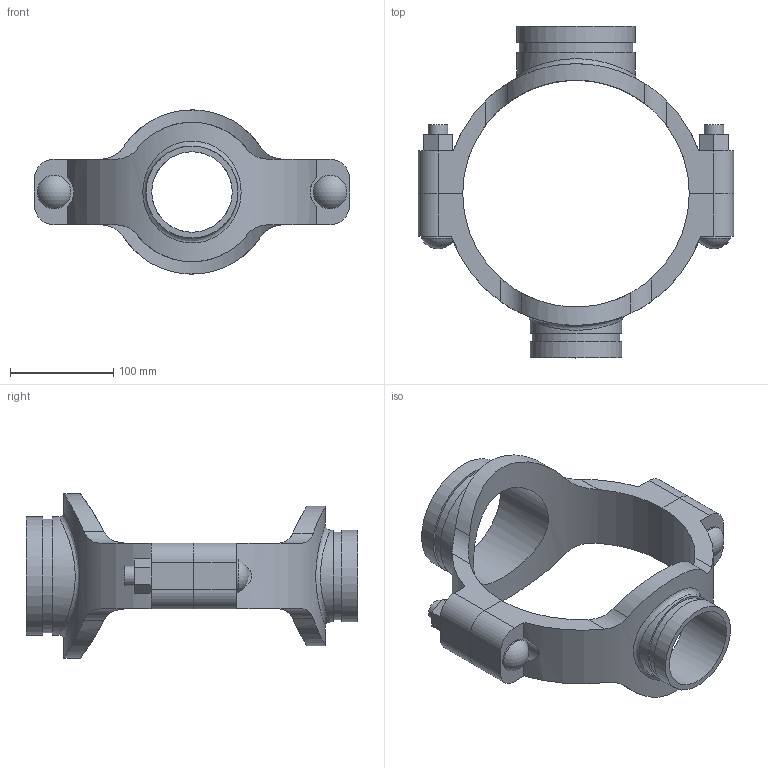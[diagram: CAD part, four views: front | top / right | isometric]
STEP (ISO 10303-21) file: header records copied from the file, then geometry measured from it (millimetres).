
FILE_DESCRIPTION(/* description */ ('VIC MECH-T BRANCH OUTLET CROSS STYLE 920N (GRVD)','CAx-IF Rec.Pracs.---Representation and Presentation of Product Manufacturing Information (PMI)---4.0---2014-10-13'),/* implementation_level */ '2;1');
FILE_NAME(/* name */ 'C:\Users\Vjadhav\AppData\Roaming\Autodesk\ApplicationPlugins\Back Up\Victaulic_IPS_Mechanical-Cross Outlet_Style 920N (OGS)\Victaulic_IPS_Mechanical-Cross Outlet_08.0x04.0x03.0 (200x100x80).stp',/* time_stamp */ '2020-08-06T19:46:03+05:00',/* author */ ('Vjadhav'),/* organization */ ('Victaulic'),/* preprocessor_version */ 'ST-DEVELOPER v17.2',/* originating_system */ 'Autodesk Inventor 2019',/* authorisation */ '');
FILE_SCHEMA (('AP242_MANAGED_MODEL_BASED_3D_ENGINEERING_MIM_LF { 1 0 10303 442 1 1 4 }'));
Length unit declared in the file: inch
Products named in the file (3): 920NG-08.0x04.0x03.0; 920G-08.0x04.0; 920G-08.0x03.0
Assembly tree (2 placements, depth 2):
  920NG-08.0x04.0x03.0
    920G-08.0x04.0
    920G-08.0x03.0
Bounding box: 304.8 x 320.8 x 158.75 mm (x, y, z)
Volume: 1251615.7 mm3; surface area: 241140.2 mm2
Topology: 2 solids, 2 shells, 108 faces, 274 edges, 186 vertices
Faces by surface type: plane 54, cylinder 50, sphere 2, bspline 2
Full cylindrical faces by diameter (mm): 19.05 x4, 32.537 x2, 77.787 x1, 84.938 x1, 88.9 x2, 102.394 x1, 110.084 x1, 114.3 x2
Entity records: 4406 total; most frequent: CARTESIAN_POINT 1525, DIRECTION 552, ORIENTED_EDGE 548, EDGE_CURVE 274, AXIS2_PLACEMENT_3D 201, VERTEX_POINT 186, LINE 150, VECTOR 150
